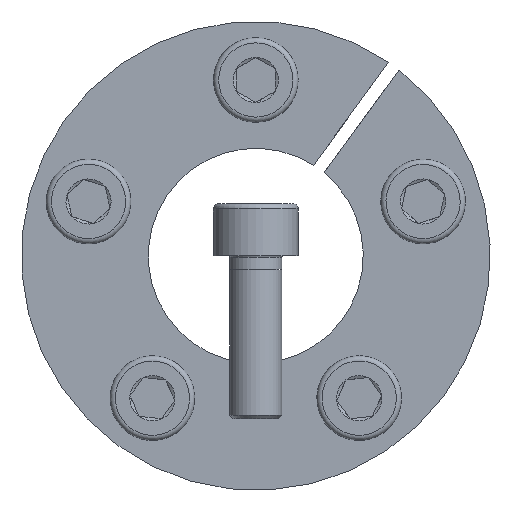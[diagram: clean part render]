
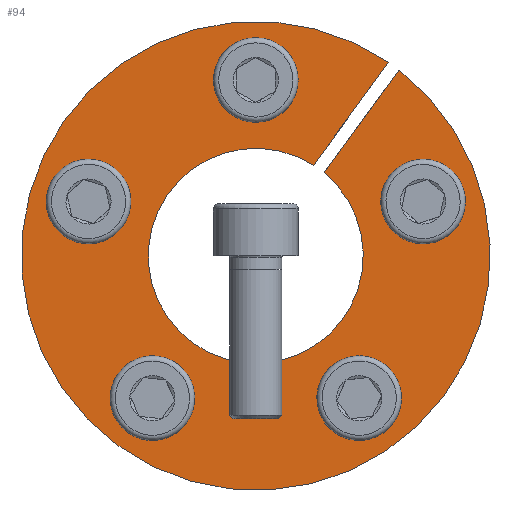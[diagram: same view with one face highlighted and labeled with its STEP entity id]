
A CAD part, front view. The second image highlights one B-rep face of the part: STEP entity #94.
In plain terms, the highlighted planar face has unit normal (0, -1, 0).
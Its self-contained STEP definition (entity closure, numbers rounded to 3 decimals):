
#94 = ADVANCED_FACE( '', ( #202, #203, #204, #205, #206, #207 ), #208, .F. );
#202 = FACE_OUTER_BOUND( '', #322, .T. );
#203 = FACE_BOUND( '', #323, .T. );
#204 = FACE_BOUND( '', #324, .T. );
#205 = FACE_BOUND( '', #325, .T. );
#206 = FACE_BOUND( '', #326, .T. );
#207 = FACE_BOUND( '', #327, .T. );
#208 = PLANE( '', #328 );
#322 = EDGE_LOOP( '', ( #531, #532, #533, #534 ) );
#323 = EDGE_LOOP( '', ( #535 ) );
#324 = EDGE_LOOP( '', ( #536 ) );
#325 = EDGE_LOOP( '', ( #537 ) );
#326 = EDGE_LOOP( '', ( #538 ) );
#327 = EDGE_LOOP( '', ( #539 ) );
#328 = AXIS2_PLACEMENT_3D( '', #540, #541, #542 );
#531 = ORIENTED_EDGE( '', *, *, #663, .T. );
#532 = ORIENTED_EDGE( '', *, *, #701, .T. );
#533 = ORIENTED_EDGE( '', *, *, #696, .T. );
#534 = ORIENTED_EDGE( '', *, *, #707, .F. );
#535 = ORIENTED_EDGE( '', *, *, #698, .F. );
#536 = ORIENTED_EDGE( '', *, *, #679, .F. );
#537 = ORIENTED_EDGE( '', *, *, #708, .F. );
#538 = ORIENTED_EDGE( '', *, *, #703, .F. );
#539 = ORIENTED_EDGE( '', *, *, #651, .F. );
#540 = CARTESIAN_POINT( '', ( 0., 0., 36. ) );
#541 = DIRECTION( '', ( 0., 1., 0. ) );
#542 = DIRECTION( '', ( 1., 0., 0. ) );
#651 = EDGE_CURVE( '', #788, #788, #789, .T. );
#663 = EDGE_CURVE( '', #811, #809, #812, .T. );
#679 = EDGE_CURVE( '', #838, #838, #839, .T. );
#696 = EDGE_CURVE( '', #857, #864, #866, .T. );
#698 = EDGE_CURVE( '', #868, #868, #869, .T. );
#701 = EDGE_CURVE( '', #809, #857, #872, .T. );
#703 = EDGE_CURVE( '', #874, #874, #875, .T. );
#707 = EDGE_CURVE( '', #811, #864, #879, .T. );
#708 = EDGE_CURVE( '', #880, #880, #881, .T. );
#788 = VERTEX_POINT( '', #1045 );
#789 = CIRCLE( '', #1046, 4.5 );
#809 = VERTEX_POINT( '', #1068 );
#811 = VERTEX_POINT( '', #1071 );
#812 = LINE( '', #1072, #1073 );
#838 = VERTEX_POINT( '', #1111 );
#839 = CIRCLE( '', #1112, 4.5 );
#857 = VERTEX_POINT( '', #1132 );
#864 = VERTEX_POINT( '', #1147 );
#866 = LINE( '', #1150, #1151 );
#868 = VERTEX_POINT( '', #1153 );
#869 = CIRCLE( '', #1154, 4.5 );
#872 = CIRCLE( '', #1157, 36. );
#874 = VERTEX_POINT( '', #1159 );
#875 = CIRCLE( '', #1160, 4.5 );
#879 = CIRCLE( '', #1164, 16.5 );
#880 = VERTEX_POINT( '', #1165 );
#881 = CIRCLE( '', #1166, 4.5 );
#1045 = CARTESIAN_POINT( '', ( -24.288, 0., 12.623 ) );
#1046 = AXIS2_PLACEMENT_3D( '', #1221, #1222, #1223 );
#1068 = CARTESIAN_POINT( '', ( 20.343, 0., 29.701 ) );
#1071 = CARTESIAN_POINT( '', ( 8.872, 0., 13.912 ) );
#1072 = CARTESIAN_POINT( '', ( 8.872, 0., 13.912 ) );
#1073 = VECTOR( '', #1245, 1000. );
#1111 = CARTESIAN_POINT( '', ( 27.069, 0., 4.064 ) );
#1112 = AXIS2_PLACEMENT_3D( '', #1267, #1268, #1269 );
#1132 = CARTESIAN_POINT( '', ( 21.961, 0., 28.526 ) );
#1147 = CARTESIAN_POINT( '', ( 10.49, 0., 12.736 ) );
#1150 = CARTESIAN_POINT( '', ( 21.969, 0., 28.537 ) );
#1151 = VECTOR( '', #1293, 1000. );
#1153 = CARTESIAN_POINT( '', ( 4.5, 0., 27. ) );
#1154 = AXIS2_PLACEMENT_3D( '', #1294, #1295, #1296 );
#1157 = AXIS2_PLACEMENT_3D( '', #1297, #1298, #1299 );
#1159 = CARTESIAN_POINT( '', ( -19.511, 0., -19.198 ) );
#1160 = AXIS2_PLACEMENT_3D( '', #1300, #1301, #1302 );
#1164 = AXIS2_PLACEMENT_3D( '', #1306, #1307, #1308 );
#1165 = CARTESIAN_POINT( '', ( 12.23, 0., -24.488 ) );
#1166 = AXIS2_PLACEMENT_3D( '', #1309, #1310, #1311 );
#1221 = CARTESIAN_POINT( '', ( -25.679, 0., 8.343 ) );
#1222 = DIRECTION( '', ( 0., -1., 0. ) );
#1223 = DIRECTION( '', ( 0.309, 0., 0.951 ) );
#1245 = DIRECTION( '', ( 0.588, 0., 0.809 ) );
#1267 = CARTESIAN_POINT( '', ( 25.679, 0., 8.343 ) );
#1268 = DIRECTION( '', ( 0., -1., 0. ) );
#1269 = DIRECTION( '', ( 0.309, 0., -0.951 ) );
#1293 = DIRECTION( '', ( -0.588, 0., -0.809 ) );
#1294 = CARTESIAN_POINT( '', ( 0., 0., 27. ) );
#1295 = DIRECTION( '', ( 0., -1., 0. ) );
#1296 = DIRECTION( '', ( 1., 0., 0. ) );
#1297 = CARTESIAN_POINT( '', ( 0., 0., 0. ) );
#1298 = DIRECTION( '', ( 0., -1., 0. ) );
#1299 = DIRECTION( '', ( 0., 0., -1. ) );
#1300 = CARTESIAN_POINT( '', ( -15.87, 0., -21.843 ) );
#1301 = DIRECTION( '', ( 0., -1., 0. ) );
#1302 = DIRECTION( '', ( -0.809, 0., 0.588 ) );
#1306 = CARTESIAN_POINT( '', ( 0., 0., 0. ) );
#1307 = DIRECTION( '', ( 0., -1., 0. ) );
#1308 = DIRECTION( '', ( 0., 0., -1. ) );
#1309 = CARTESIAN_POINT( '', ( 15.87, 0., -21.843 ) );
#1310 = DIRECTION( '', ( 0., -1., 0. ) );
#1311 = DIRECTION( '', ( -0.809, 0., -0.588 ) );
